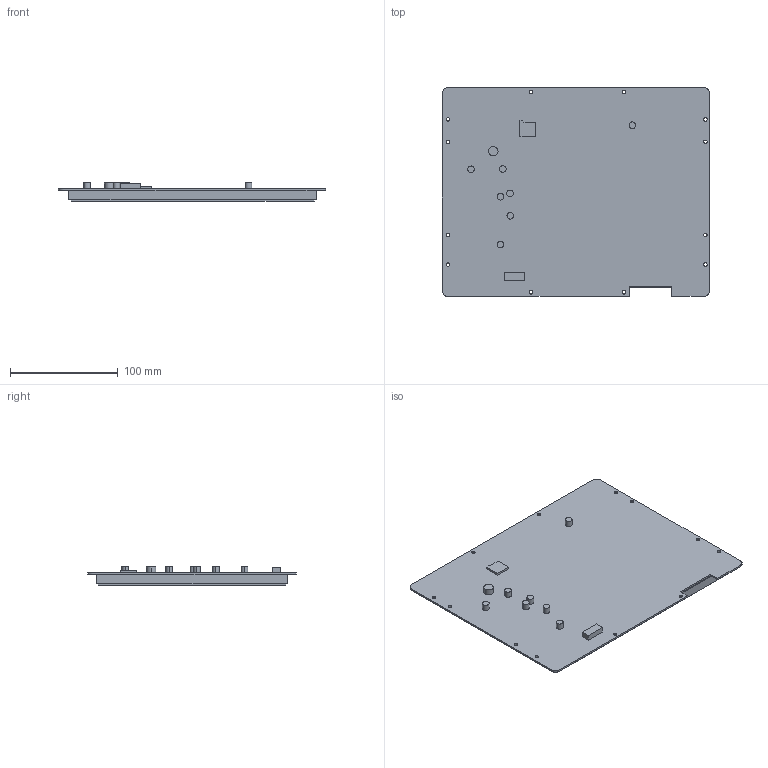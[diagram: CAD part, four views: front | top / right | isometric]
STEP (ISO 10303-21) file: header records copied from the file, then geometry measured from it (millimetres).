
FILE_DESCRIPTION((''),'2;1');
FILE_NAME('DMG10768T104-09WN-WTR','2021-10-21T',('Administrator'),(''),'PRO/ENGINEER BY PARAMETRIC TECHNOLOGY CORPORATION, 2008380','PRO/ENGINEER BY PARAMETRIC TECHNOLOGY CORPORATION, 2008380','');
FILE_SCHEMA(('CONFIG_CONTROL_DESIGN'));
Products named in the file (1): DMG10768T104-09WN-WTR
Bounding box: 247.78 x 193.67 x 17.5 mm (x, y, z)
Volume: 473007 mm3; surface area: 175652.5 mm2
Topology: 1 solids, 2 shells, 91 faces, 19221 edges, 32180 vertices
Faces by surface type: plane 47, cylinder 44
Entity records: 103795 total; most frequent: DIRECTION 25458, CARTESIAN_POINT 19463, TRIMMED_CURVE 18995, VECTOR 13168, LINE 13168, AXIS2_PLACEMENT_3D 6145, CIRCLE 6053, ORIENTED_EDGE 452
